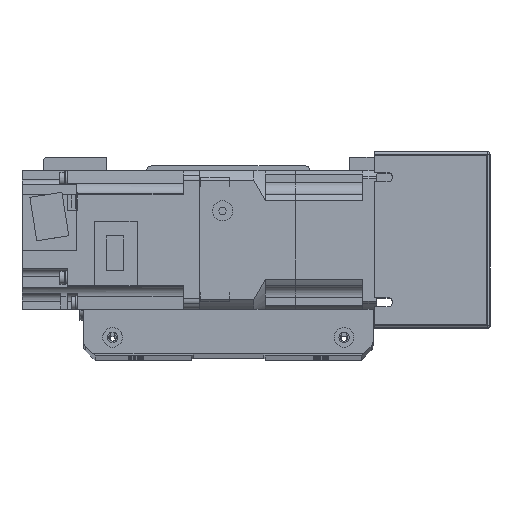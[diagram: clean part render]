
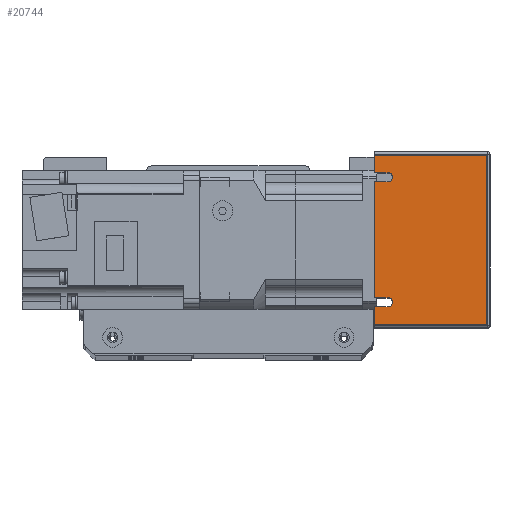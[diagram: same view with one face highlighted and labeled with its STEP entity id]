
A CAD part, top view. The second image highlights one B-rep face of the part: STEP entity #20744.
In plain terms, the highlighted planar face has unit normal (0, 0, 1) as drawn and (-1, 0, 0) by its records, which use the part's own axes.
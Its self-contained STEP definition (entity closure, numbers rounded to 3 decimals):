
#665=PLANE('',#22941);
#1995=LINE('',#34685,#3619);
#2002=LINE('',#34701,#3626);
#2011=LINE('',#34721,#3635);
#2019=LINE('',#34739,#3643);
#2034=LINE('',#34782,#3658);
#2036=LINE('',#34789,#3660);
#2039=LINE('',#34798,#3663);
#2044=LINE('',#34812,#3668);
#2045=LINE('',#34814,#3669);
#2046=LINE('',#34815,#3670);
#3619=VECTOR('',#28236,10.);
#3626=VECTOR('',#28247,10.);
#3635=VECTOR('',#28260,10.);
#3643=VECTOR('',#28272,10.);
#3658=VECTOR('',#28317,10.);
#3660=VECTOR('',#28325,10.);
#3663=VECTOR('',#28334,10.);
#3668=VECTOR('',#28347,10.);
#3669=VECTOR('',#28348,10.);
#3670=VECTOR('',#28349,10.);
#6002=FACE_OUTER_BOUND('',#7614,.T.);
#7614=EDGE_LOOP('',(#18010,#18011,#18012,#18013,#18014,#18015,#18016,#18017,
#18018,#18019,#18020,#18021));
#8756=CIRCLE('',#22920,2.);
#8761=CIRCLE('',#22928,2.);
#10445=VERTEX_POINT('',#34682);
#10446=VERTEX_POINT('',#34684);
#10452=VERTEX_POINT('',#34698);
#10453=VERTEX_POINT('',#34700);
#10461=VERTEX_POINT('',#34718);
#10462=VERTEX_POINT('',#34720);
#10469=VERTEX_POINT('',#34736);
#10470=VERTEX_POINT('',#34738);
#10483=VERTEX_POINT('',#34781);
#10488=VERTEX_POINT('',#34796);
#10493=VERTEX_POINT('',#34811);
#10494=VERTEX_POINT('',#34813);
#12997=EDGE_CURVE('',#10445,#10446,#1995,.T.);
#13004=EDGE_CURVE('',#10452,#10453,#2002,.T.);
#13013=EDGE_CURVE('',#10461,#10462,#2011,.T.);
#13021=EDGE_CURVE('',#10469,#10470,#2019,.T.);
#13028=EDGE_CURVE('',#10453,#10445,#8756,.T.);
#13039=EDGE_CURVE('',#10470,#10461,#8761,.T.);
#13045=EDGE_CURVE('',#10483,#10462,#2034,.T.);
#13049=EDGE_CURVE('',#10469,#10446,#2036,.T.);
#13054=EDGE_CURVE('',#10452,#10488,#2039,.T.);
#13061=EDGE_CURVE('',#10488,#10493,#2044,.T.);
#13062=EDGE_CURVE('',#10493,#10494,#2045,.T.);
#13063=EDGE_CURVE('',#10494,#10483,#2046,.T.);
#18010=ORIENTED_EDGE('',*,*,#12997,.F.);
#18011=ORIENTED_EDGE('',*,*,#13028,.F.);
#18012=ORIENTED_EDGE('',*,*,#13004,.F.);
#18013=ORIENTED_EDGE('',*,*,#13054,.T.);
#18014=ORIENTED_EDGE('',*,*,#13061,.T.);
#18015=ORIENTED_EDGE('',*,*,#13062,.T.);
#18016=ORIENTED_EDGE('',*,*,#13063,.T.);
#18017=ORIENTED_EDGE('',*,*,#13045,.T.);
#18018=ORIENTED_EDGE('',*,*,#13013,.F.);
#18019=ORIENTED_EDGE('',*,*,#13039,.F.);
#18020=ORIENTED_EDGE('',*,*,#13021,.F.);
#18021=ORIENTED_EDGE('',*,*,#13049,.T.);
#20744=ADVANCED_FACE('',(#6002),#665,.F.);
#22920=AXIS2_PLACEMENT_3D('',#34752,#28284,#28285);
#22928=AXIS2_PLACEMENT_3D('',#34770,#28306,#28307);
#22941=AXIS2_PLACEMENT_3D('',#34810,#28345,#28346);
#28236=DIRECTION('',(0.,0.,-1.));
#28247=DIRECTION('',(0.,0.,1.));
#28260=DIRECTION('',(0.,0.,-1.));
#28272=DIRECTION('',(0.,0.,1.));
#28284=DIRECTION('center_axis',(-1.,0.,0.));
#28285=DIRECTION('ref_axis',(0.,0.,-1.));
#28306=DIRECTION('center_axis',(-1.,0.,0.));
#28307=DIRECTION('ref_axis',(0.,0.,-1.));
#28317=DIRECTION('',(0.,-1.,0.));
#28325=DIRECTION('',(0.,-1.,0.));
#28334=DIRECTION('',(0.,-1.,0.));
#28345=DIRECTION('center_axis',(1.,0.,0.));
#28346=DIRECTION('ref_axis',(0.,-1.,0.));
#28347=DIRECTION('',(0.,0.,1.));
#28348=DIRECTION('',(0.,1.,0.));
#28349=DIRECTION('',(0.,0.,-1.));
#34682=CARTESIAN_POINT('',(-91.,-25.,-19.));
#34684=CARTESIAN_POINT('',(-91.,-25.,-25.));
#34685=CARTESIAN_POINT('',(-91.,-25.,-9.5));
#34698=CARTESIAN_POINT('',(-91.,-29.,-25.));
#34700=CARTESIAN_POINT('',(-91.,-29.,-19.));
#34701=CARTESIAN_POINT('',(-91.,-29.,-15.178));
#34718=CARTESIAN_POINT('',(-91.,29.,-19.));
#34720=CARTESIAN_POINT('',(-91.,29.,-25.));
#34721=CARTESIAN_POINT('',(-91.,29.,-9.5));
#34736=CARTESIAN_POINT('',(-91.,25.,-25.));
#34738=CARTESIAN_POINT('',(-91.,25.,-19.));
#34739=CARTESIAN_POINT('',(-91.,25.,-15.178));
#34752=CARTESIAN_POINT('Origin',(-91.,-27.,-19.));
#34770=CARTESIAN_POINT('Origin',(-91.,27.,-19.));
#34781=CARTESIAN_POINT('',(-91.,37.,-25.));
#34782=CARTESIAN_POINT('',(-91.,-38.,-25.));
#34789=CARTESIAN_POINT('',(-91.,-38.,-25.));
#34796=CARTESIAN_POINT('',(-91.,-37.,-25.));
#34798=CARTESIAN_POINT('',(-91.,-38.,-25.));
#34810=CARTESIAN_POINT('Origin',(-91.,38.,0.));
#34811=CARTESIAN_POINT('',(-91.,-37.,24.));
#34812=CARTESIAN_POINT('',(-91.,-37.,0.));
#34813=CARTESIAN_POINT('',(-91.,37.,24.));
#34814=CARTESIAN_POINT('',(-91.,19.,24.));
#34815=CARTESIAN_POINT('',(-91.,37.,0.));
